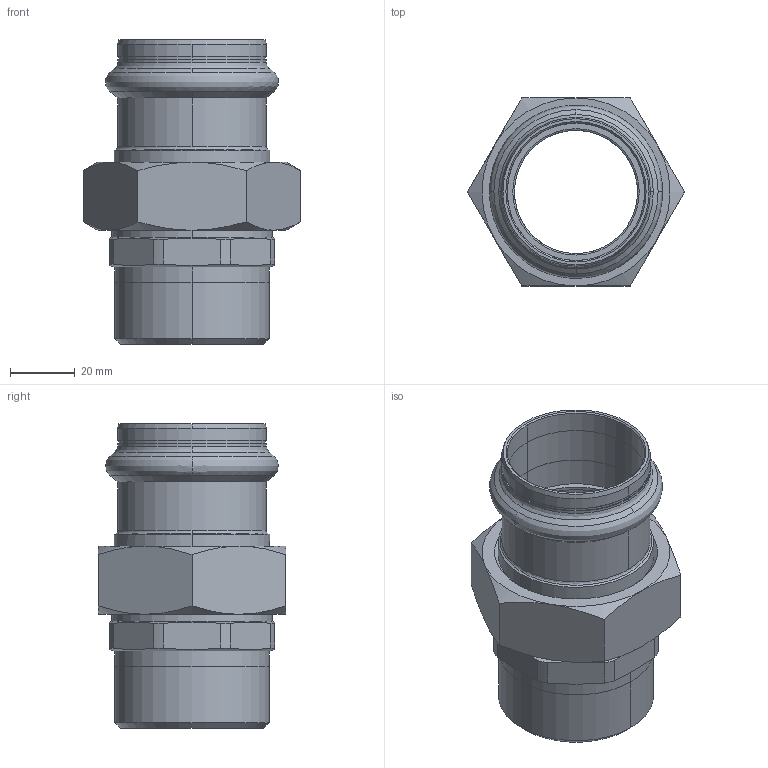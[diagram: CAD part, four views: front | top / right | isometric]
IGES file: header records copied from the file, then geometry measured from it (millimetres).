
Start section: Elysium IGES Interface
Global section: file name: C:\3d modellen sudo\C-Pr VP\SP8331GV\8331GVW42112.igs; native system: CoCreate Modeling 17.00A  17-Jun-2010; preprocessor: CoCreate IGES_3D V2.2; author: Unknown; organization: Unknown; date: 20130305.125301; units: millimetre
Bounding box: 66.97 x 58 x 94 mm (x, y, z)
Volume: 72664.1 mm3; surface area: 38963.6 mm2
Topology: 3 solids, 3 shells, 128 faces, 311 edges, 190 vertices
Faces by surface type: bspline 128
